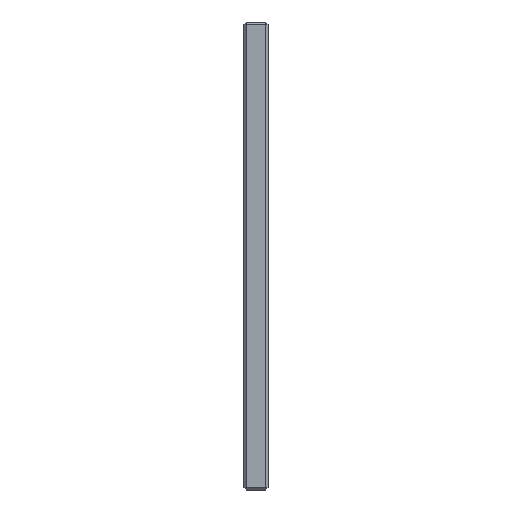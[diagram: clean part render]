
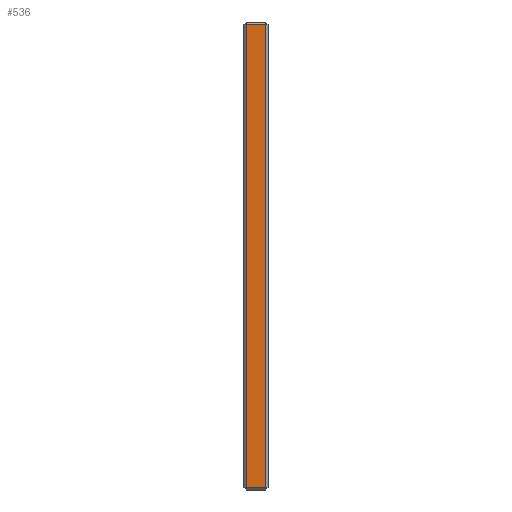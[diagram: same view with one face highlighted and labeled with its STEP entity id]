
A CAD part, left-side view. The second image highlights one B-rep face of the part: STEP entity #536.
In plain terms, the highlighted planar face has unit normal (-1, 0, 0).
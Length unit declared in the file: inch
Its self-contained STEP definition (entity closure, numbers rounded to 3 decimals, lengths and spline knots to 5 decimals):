
#69 = DIRECTION ( 'NONE',  ( 0., 1., 0. ) ) ;
#101 = CARTESIAN_POINT ( 'NONE',  ( -9.9375, 0.5, -4.825 ) ) ;
#110 = CARTESIAN_POINT ( 'NONE',  ( -9.9375, 0.45, -4.825 ) ) ;
#118 = EDGE_CURVE ( 'NONE', #686, #1256, #1381, .T. ) ;
#160 = DIRECTION ( 'NONE',  ( 0., -1., 0. ) ) ;
#196 = VECTOR ( 'NONE', #69, 39.37008 ) ;
#296 = VECTOR ( 'NONE', #1380, 39.37008 ) ;
#305 = DIRECTION ( 'NONE',  ( 0., 0., -1. ) ) ;
#324 = ORIENTED_EDGE ( 'NONE', *, *, #118, .T. ) ;
#402 = AXIS2_PLACEMENT_3D ( 'NONE', #1888, #1161, #1883 ) ;
#499 = EDGE_LOOP ( 'NONE', ( #1377, #802, #1233, #324 ) ) ;
#536 = ADVANCED_FACE ( 'Placement Plane', ( #1893 ), #1146, .F. ) ;
#549 = VECTOR ( 'NONE', #160, 39.37008 ) ;
#599 = LINE ( 'NONE', #101, #549 ) ;
#619 = CARTESIAN_POINT ( 'NONE',  ( -9.9375, 0.45, 4.825 ) ) ;
#664 = EDGE_CURVE ( 'NONE', #1256, #1739, #1818, .T. ) ;
#686 = VERTEX_POINT ( 'NONE', #1340 ) ;
#802 = ORIENTED_EDGE ( 'NONE', *, *, #1857, .T. ) ;
#892 = VECTOR ( 'NONE', #305, 39.37008 ) ;
#1020 = CARTESIAN_POINT ( 'NONE',  ( -9.9375, 0.05, -4.825 ) ) ;
#1111 = LINE ( 'NONE', #1802, #296 ) ;
#1131 = VERTEX_POINT ( 'NONE', #1020 ) ;
#1146 = PLANE ( 'NONE',  #402 ) ;
#1161 = DIRECTION ( 'NONE',  ( 1., 0., 0. ) ) ;
#1172 = CARTESIAN_POINT ( 'NONE',  ( -9.9375, 0.45, -4.875 ) ) ;
#1233 = ORIENTED_EDGE ( 'NONE', *, *, #1665, .T. ) ;
#1238 = CARTESIAN_POINT ( 'NONE',  ( -9.9375, 0.5, 4.825 ) ) ;
#1256 = VERTEX_POINT ( 'NONE', #619 ) ;
#1340 = CARTESIAN_POINT ( 'NONE',  ( -9.9375, 0.05, 4.825 ) ) ;
#1377 = ORIENTED_EDGE ( 'NONE', *, *, #664, .T. ) ;
#1380 = DIRECTION ( 'NONE',  ( 0., 0., 1. ) ) ;
#1381 = LINE ( 'NONE', #1238, #196 ) ;
#1665 = EDGE_CURVE ( 'NONE', #1131, #686, #1111, .T. ) ;
#1739 = VERTEX_POINT ( 'NONE', #110 ) ;
#1802 = CARTESIAN_POINT ( 'NONE',  ( -9.9375, 0.05, -4.875 ) ) ;
#1818 = LINE ( 'NONE', #1172, #892 ) ;
#1857 = EDGE_CURVE ( 'NONE', #1739, #1131, #599, .T. ) ;
#1883 = DIRECTION ( 'NONE',  ( 0., 0., -1. ) ) ;
#1888 = CARTESIAN_POINT ( 'NONE',  ( -9.9375, 0.5, -4.875 ) ) ;
#1893 = FACE_OUTER_BOUND ( 'NONE', #499, .T. ) ;
